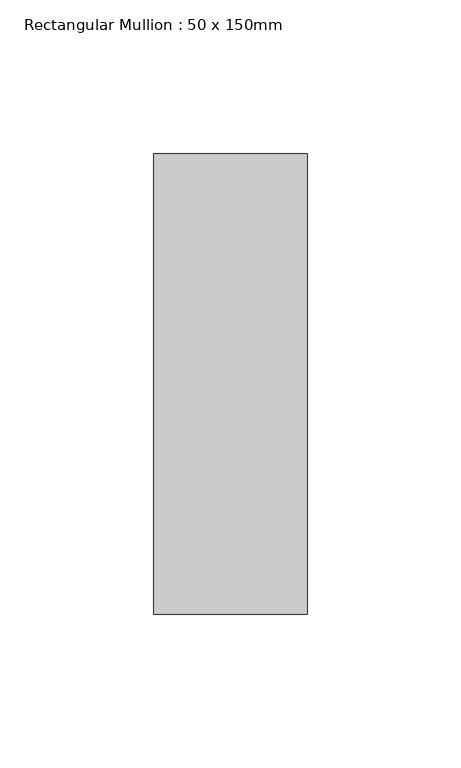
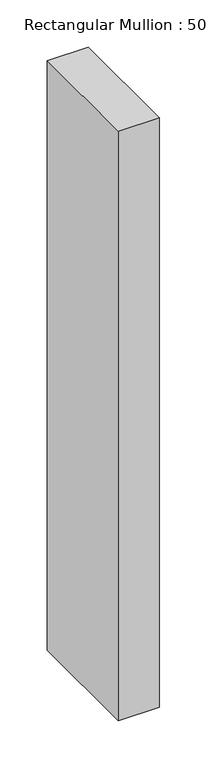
"""IFC4 building model written with IfcOpenShell, lengths in millimetres: member geometry, Rectangular Mullion : 50 x 150mm."""

import ifcopenshell
import ifcopenshell.guid

model = None  # the IFC model being written
_history = None  # IfcOwnerHistory: only IFC2X3 demands one
_inside = {}  # id of a spatial element -> (the spatial element, [elements in it])
_under = {}  # id of a project, library or spatial element -> (it, [spatial elements below it])
_declared = {}  # id of a project -> (the project, [libraries it declares])
_typed = {}  # id of a type object -> (the type object, [elements of that type])
_made_of = {}  # id of a material, layer set ... -> (it, [elements and type objects made of it])


def new_model(schema):
    """Start an empty IFC model of exactly this schema.

    Asked for "IFC4X3", IfcOpenShell would pick the latest addendum, in which some entities
    have other attributes; the version numbers below select the first issue.
    IFC2X3 requires an IfcOwnerHistory on every rooted entity: one is made here for all.
    """
    global model, _history
    if schema == "IFC4X3":
        model = ifcopenshell.file(schema_version=(4, 3, 0, 0))
    else:
        model = ifcopenshell.file(schema=schema)
    _inside.clear()
    _under.clear()
    _declared.clear()
    _typed.clear()
    _made_of.clear()
    _history = None
    if model.schema == "IFC2X3":
        org = make("IfcOrganization", Name="unknown")
        user = make(
            "IfcPersonAndOrganization",
            ThePerson=make("IfcPerson", FamilyName="unknown"),
            TheOrganization=org,
        )
        app = make(
            "IfcApplication",
            ApplicationDeveloper=org,
            Version="unknown",
            ApplicationFullName="unknown",
            ApplicationIdentifier="unknown",
        )
        _history = make(
            "IfcOwnerHistory",
            OwningUser=user,
            OwningApplication=app,
            ChangeAction="ADDED",
            CreationDate=0,
        )
    return model


def make(cls, **values):
    """One entity of the class cls with the attributes given. An attribute that is None is left unset."""
    return model.create_entity(
        cls, **{name: value for name, value in values.items() if value is not None}
    )


def rooted(cls, **values):
    """An entity with a GlobalId (a new one), such as an element, a storey or a relation."""
    return make(cls, GlobalId=ifcopenshell.guid.new(), OwnerHistory=_history, **values)


def si_unit(unit_type, name, prefix=None):
    """IfcSIUnit, for example si_unit("LENGTHUNIT", "METRE", prefix="MILLI")."""
    return make("IfcSIUnit", UnitType=unit_type, Prefix=prefix, Name=name)


def assignment(units):
    """IfcUnitAssignment: the units of a project."""
    return None if units is None else make("IfcUnitAssignment", Units=units)


def point(xyz):
    """IfcCartesianPoint."""
    return None if xyz is None else make("IfcCartesianPoint", Coordinates=xyz)


def direction(xyz):
    """IfcDirection."""
    return None if xyz is None else make("IfcDirection", DirectionRatios=xyz)


def frame(location, z_axis=None, x_axis=None):
    """IfcAxis2Placement3D, a coordinate frame: its origin and axes. An axis left out is left unset."""
    return make(
        "IfcAxis2Placement3D",
        Location=point(location),
        Axis=direction(z_axis),
        RefDirection=direction(x_axis),
    )


def origin():
    """The frame at (0, 0, 0) with its axes left unset."""
    return frame((0.0, 0.0, 0.0))


def place(relative_to, where):
    """IfcLocalPlacement: puts the frame where relative to a parent placement (None: the world)."""
    return make(
        "IfcLocalPlacement", PlacementRelTo=relative_to, RelativePlacement=where
    )


def context(
    kind, dimensions, precision=None, world=None, true_north=None, identifier=None
):
    """IfcGeometricRepresentationContext, for example the 3D "Model" context."""
    return make(
        "IfcGeometricRepresentationContext",
        ContextIdentifier=identifier,
        ContextType=kind,
        CoordinateSpaceDimension=dimensions,
        Precision=precision,
        WorldCoordinateSystem=world,
        TrueNorth=true_north,
    )


def project(units=None, contexts=None):
    """IfcProject with its units and contexts."""
    return rooted(
        "IfcProject",
        Name="project",
        RepresentationContexts=contexts,
        UnitsInContext=assignment(units),
    )


def spatial(cls, under=None, at=None, **own):
    """A site, building, storey or space (cls), placed at a placement, below another one or the project."""
    s = rooted(cls, ObjectPlacement=at, **own)
    if under is not None:
        _under.setdefault(under.id(), (under, []))[1].append(s)
    return s


def polyline(points):
    """IfcPolyline through the points."""
    return make("IfcPolyline", Points=[point(p) for p in points])


def outline(outer, holes=None, kind="AREA"):
    """IfcArbitraryClosedProfileDef: a profile drawn as a closed curve; with holes, ...WithVoids."""
    if holes is None:
        return make("IfcArbitraryClosedProfileDef", ProfileType=kind, OuterCurve=outer)
    return make(
        "IfcArbitraryProfileDefWithVoids",
        ProfileType=kind,
        OuterCurve=outer,
        InnerCurves=holes,
    )


def extrude(swept, where, along, depth):
    """IfcExtrudedAreaSolid: the profile swept, set in the frame where, extruded along a direction by depth."""
    return make(
        "IfcExtrudedAreaSolid",
        SweptArea=swept,
        Position=where,
        ExtrudedDirection=direction(along),
        Depth=depth,
    )


def shape(context_of_items, identifier, shape_type, items):
    """IfcShapeRepresentation: the items that make up one representation, for example the "Body"."""
    return make(
        "IfcShapeRepresentation",
        ContextOfItems=context_of_items,
        RepresentationIdentifier=identifier,
        RepresentationType=shape_type,
        Items=items,
    )


def source(mapping_origin, context_of_items, identifier, shape_type, items):
    """IfcRepresentationMap: a shape defined once, which mapped items show again and again."""
    return make(
        "IfcRepresentationMap",
        MappingOrigin=mapping_origin,
        MappedRepresentation=shape(context_of_items, identifier, shape_type, items),
    )


def transform(
    local_origin,
    x_axis=None,
    y_axis=None,
    z_axis=None,
    scale=None,
    scale2=None,
    scale3=None,
    uniform=True,
):
    """IfcCartesianTransformationOperator3D, or its non-uniform kind. x_axis, y_axis, z_axis: its Axis1, 2, 3."""
    if uniform:
        return make(
            "IfcCartesianTransformationOperator3D",
            Axis1=direction(x_axis),
            Axis2=direction(y_axis),
            LocalOrigin=point(local_origin),
            Scale=scale,
            Axis3=direction(z_axis),
        )
    return make(
        "IfcCartesianTransformationOperator3DnonUniform",
        Axis1=direction(x_axis),
        Axis2=direction(y_axis),
        LocalOrigin=point(local_origin),
        Scale=scale,
        Axis3=direction(z_axis),
        Scale2=scale2,
        Scale3=scale3,
    )


def mapped(mapping_source, mapping_target):
    """IfcMappedItem: shows the shape of a source again, moved by a transform."""
    return make(
        "IfcMappedItem", MappingSource=mapping_source, MappingTarget=mapping_target
    )


def made_of(thing, what):
    """Note that an element or type object is made of a material, layer set ...; save() writes the relation."""
    if what is not None:
        _made_of.setdefault(what.id(), (what, []))[1].append(thing)
    return thing


def element(
    cls,
    number,
    at=None,
    inside=None,
    cuts=None,
    type_object=None,
    material=None,
    context=None,
    identifier="Body",
    shape_type=None,
    held_by="IfcProductDefinitionShape",
    body=None,
    shapes=None,
    **own,
):
    """One element of the class cls, such as IfcWall. Its Tag is "e" and its number.

    at: its placement. inside: the storey or other place that contains it. cuts: it is an
    opening in that element (IfcRelVoidsElement). A single representation is given by context,
    identifier, shape_type and body (its items); several are given by shapes. held_by: the class
    of the entity that holds the representations. save() writes the other relations.
    """
    e = rooted(cls, Tag="e%d" % number, ObjectPlacement=at, **own)
    if body is not None:
        shapes = [shape(context, identifier, shape_type, body)]
    if shapes is not None:
        e.Representation = make(held_by, Representations=shapes)
    if inside is not None:
        _inside.setdefault(inside.id(), (inside, []))[1].append(e)
    if cuts is not None:
        rooted(
            "IfcRelVoidsElement", RelatingBuildingElement=cuts, RelatedOpeningElement=e
        )
    if type_object is not None:
        _typed.setdefault(type_object.id(), (type_object, []))[1].append(e)
    return made_of(e, material)


def aggregate(whole, parts):
    """IfcRelAggregates: a whole, such as a stair, and the parts it consists of."""
    return rooted("IfcRelAggregates", RelatingObject=whole, RelatedObjects=parts)


def save(model, path):
    """Write the relations noted so far, then the file.

    IfcRelAggregates (storeys below a building ...), IfcRelContainedInSpatialStructure (elements
    in a storey), IfcRelDefinesByType, IfcRelAssociatesMaterial and IfcRelDeclares: one each for
    every whole, place, type object, material and project.
    """
    for whole, parts in _under.values():
        aggregate(whole, parts)
    for where, things in _inside.values():
        rooted(
            "IfcRelContainedInSpatialStructure",
            RelatedElements=things,
            RelatingStructure=where,
        )
    for kind, things in _typed.values():
        rooted("IfcRelDefinesByType", RelatedObjects=things, RelatingType=kind)
    for what, things in _made_of.values():
        rooted("IfcRelAssociatesMaterial", RelatedObjects=things, RelatingMaterial=what)
    for by, libraries in _declared.values():
        rooted("IfcRelDeclares", RelatingContext=by, RelatedDefinitions=libraries)
    model.write(path)


def rectangular_mullion_50_x_150mm_0539f9e4(model_context):
    return source(origin(), model_context, "Body", "SweptSolid", [
        extrude(outline(polyline([(25.0, 75.0), (25.0, -75.0), (-25.0, -75.0), (-25.0, 75.0), (25.0, 75.0)])), frame((0.0, 0.0, -760.1784942), z_axis=(0.0, 0.0, 1.0), x_axis=(1.0, 0.0, 0.0)), (0.0, 0.0, 1.0), 760.1784942),
    ])


if __name__ == "__main__":
    model = new_model("IFC4")
    model_context = context("Model", 3, world=origin())
    ifc_project = project(units=[si_unit("LENGTHUNIT", "METRE", prefix="MILLI")], contexts=[model_context])
    site = spatial("IfcSite", under=ifc_project)
    building = spatial("IfcBuilding", under=site)
    placement = place(None, origin())
    rectangular_mullion_50_x_150mm_shape = rectangular_mullion_50_x_150mm_0539f9e4(model_context)
    element("IfcMember", 1, ObjectType="Rectangular Mullion : 50 x 150mm", at=placement, inside=building, context=model_context, shape_type="MappedRepresentation", body=[
        mapped(rectangular_mullion_50_x_150mm_shape, transform((0.0, 0.0, 0.0), x_axis=(1.0, 0.0, 0.0), y_axis=(0.0, 1.0, 0.0), z_axis=(0.0, 0.0, 1.0))),
    ])
    save(model, "model.ifc")
